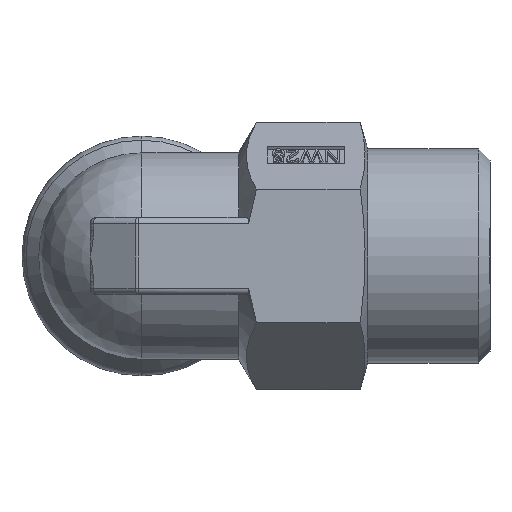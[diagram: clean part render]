
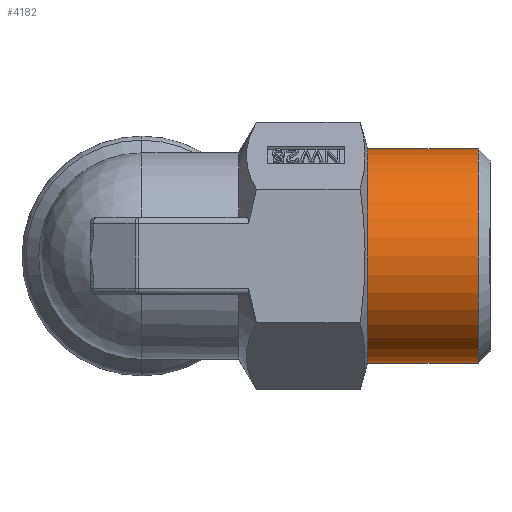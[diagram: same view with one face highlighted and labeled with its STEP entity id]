
A CAD part, left-side view. The second image highlights one B-rep face of the part: STEP entity #4182.
In plain terms, the highlighted cylindrical face has radius 16.6 mm (diameter 33.2 mm), a partial arc.
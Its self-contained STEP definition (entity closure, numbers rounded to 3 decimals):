
#117 = DIRECTION ( 'NONE',  ( 0., 1., 0. ) ) ;
#176 = CARTESIAN_POINT ( 'NONE',  ( 0., -52.2, 16.6 ) ) ;
#513 = CARTESIAN_POINT ( 'NONE',  ( 0., -35., -16.6 ) ) ;
#684 = DIRECTION ( 'NONE',  ( 0., 0., -1. ) ) ;
#1122 = CARTESIAN_POINT ( 'NONE',  ( 0., -52.2, -16.6 ) ) ;
#1183 = EDGE_CURVE ( 'NONE', #2522, #3922, #1234, .T. ) ;
#1230 = CARTESIAN_POINT ( 'NONE',  ( 0., -54., 16.6 ) ) ;
#1234 = LINE ( 'NONE', #1230, #5417 ) ;
#1502 = AXIS2_PLACEMENT_3D ( 'NONE', #1835, #5906, #4329 ) ;
#1595 = VECTOR ( 'NONE', #5664, 1000. ) ;
#1726 = ORIENTED_EDGE ( 'NONE', *, *, #5309, .F. ) ;
#1835 = CARTESIAN_POINT ( 'NONE',  ( 0., -54., 0. ) ) ;
#1884 = ORIENTED_EDGE ( 'NONE', *, *, #1903, .T. ) ;
#1903 = EDGE_CURVE ( 'NONE', #3922, #4804, #2006, .T. ) ;
#2006 = CIRCLE ( 'NONE', #4363, 16.6 ) ;
#2470 = DIRECTION ( 'NONE',  ( 0., 0., -1. ) ) ;
#2522 = VERTEX_POINT ( 'NONE', #176 ) ;
#2891 = FACE_OUTER_BOUND ( 'NONE', #5892, .T. ) ;
#2921 = LINE ( 'NONE', #4689, #1595 ) ;
#2923 = AXIS2_PLACEMENT_3D ( 'NONE', #4721, #117, #684 ) ;
#3199 = CIRCLE ( 'NONE', #2923, 16.6 ) ;
#3420 = DIRECTION ( 'NONE',  ( 0., -1., 0. ) ) ;
#3530 = VERTEX_POINT ( 'NONE', #1122 ) ;
#3767 = ORIENTED_EDGE ( 'NONE', *, *, #4846, .T. ) ;
#3922 = VERTEX_POINT ( 'NONE', #5090 ) ;
#4182 = ADVANCED_FACE ( 'NONE', ( #2891 ), #6538, .T. ) ;
#4329 = DIRECTION ( 'NONE',  ( 0., 0., 1. ) ) ;
#4363 = AXIS2_PLACEMENT_3D ( 'NONE', #5494, #3420, #2470 ) ;
#4408 = ORIENTED_EDGE ( 'NONE', *, *, #1183, .T. ) ;
#4689 = CARTESIAN_POINT ( 'NONE',  ( 0., -54., -16.6 ) ) ;
#4721 = CARTESIAN_POINT ( 'NONE',  ( 0., -52.2, 0. ) ) ;
#4804 = VERTEX_POINT ( 'NONE', #513 ) ;
#4846 = EDGE_CURVE ( 'NONE', #3530, #2522, #3199, .T. ) ;
#5090 = CARTESIAN_POINT ( 'NONE',  ( 0., -35., 16.6 ) ) ;
#5309 = EDGE_CURVE ( 'NONE', #3530, #4804, #2921, .T. ) ;
#5417 = VECTOR ( 'NONE', #6255, 1000. ) ;
#5494 = CARTESIAN_POINT ( 'NONE',  ( 0., -35., 0. ) ) ;
#5664 = DIRECTION ( 'NONE',  ( 0., 1., 0. ) ) ;
#5892 = EDGE_LOOP ( 'NONE', ( #1726, #3767, #4408, #1884 ) ) ;
#5906 = DIRECTION ( 'NONE',  ( 0., 1., 0. ) ) ;
#6255 = DIRECTION ( 'NONE',  ( 0., 1., 0. ) ) ;
#6538 = CYLINDRICAL_SURFACE ( 'NONE', #1502, 16.6 ) ;
